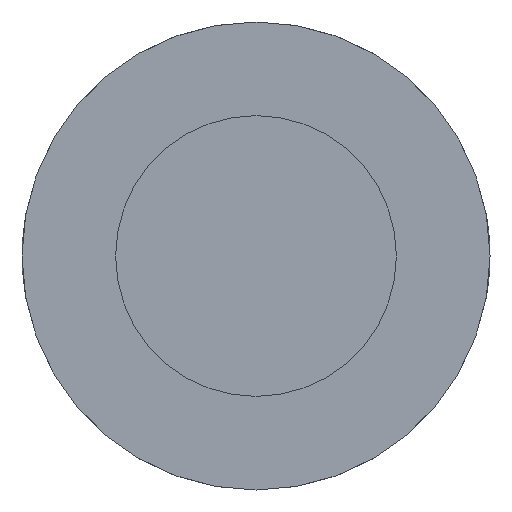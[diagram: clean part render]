
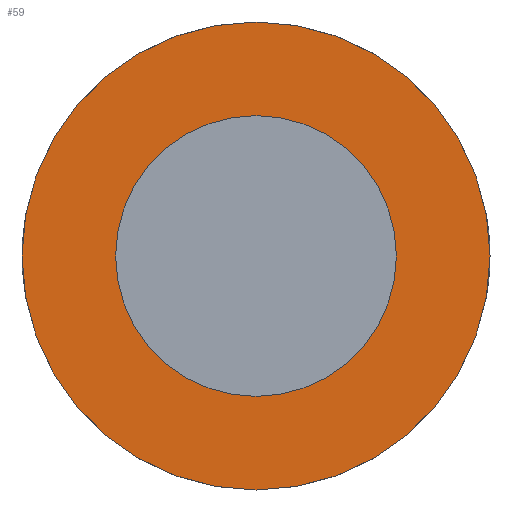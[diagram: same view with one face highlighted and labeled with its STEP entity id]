
A CAD part, front view. The second image highlights one B-rep face of the part: STEP entity #59.
In plain terms, the highlighted planar face has unit normal (0, -1, 0).
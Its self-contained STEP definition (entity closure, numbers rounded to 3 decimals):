
#24 = VERTEX_POINT('',#25);
#25 = CARTESIAN_POINT('',(1.65,6.,0.));
#31 = EDGE_CURVE('',#24,#24,#32,.T.);
#32 = CIRCLE('',#33,1.65);
#33 = AXIS2_PLACEMENT_3D('',#34,#35,#36);
#34 = CARTESIAN_POINT('',(0.,6.,0.));
#35 = DIRECTION('',(0.,1.,0.));
#36 = DIRECTION('',(1.,0.,0.));
#59 = ADVANCED_FACE('',(#60,#71),#74,.F.);
#60 = FACE_BOUND('',#61,.F.);
#61 = EDGE_LOOP('',(#62));
#62 = ORIENTED_EDGE('',*,*,#63,.T.);
#63 = EDGE_CURVE('',#64,#64,#66,.T.);
#64 = VERTEX_POINT('',#65);
#65 = CARTESIAN_POINT('',(2.75,6.,0.));
#66 = CIRCLE('',#67,2.75);
#67 = AXIS2_PLACEMENT_3D('',#68,#69,#70);
#68 = CARTESIAN_POINT('',(0.,6.,0.));
#69 = DIRECTION('',(0.,1.,0.));
#70 = DIRECTION('',(1.,0.,0.));
#71 = FACE_BOUND('',#72,.F.);
#72 = EDGE_LOOP('',(#73));
#73 = ORIENTED_EDGE('',*,*,#31,.F.);
#74 = PLANE('',#75);
#75 = AXIS2_PLACEMENT_3D('',#76,#77,#78);
#76 = CARTESIAN_POINT('',(0.,6.,0.));
#77 = DIRECTION('',(0.,1.,0.));
#78 = DIRECTION('',(1.,0.,0.));
